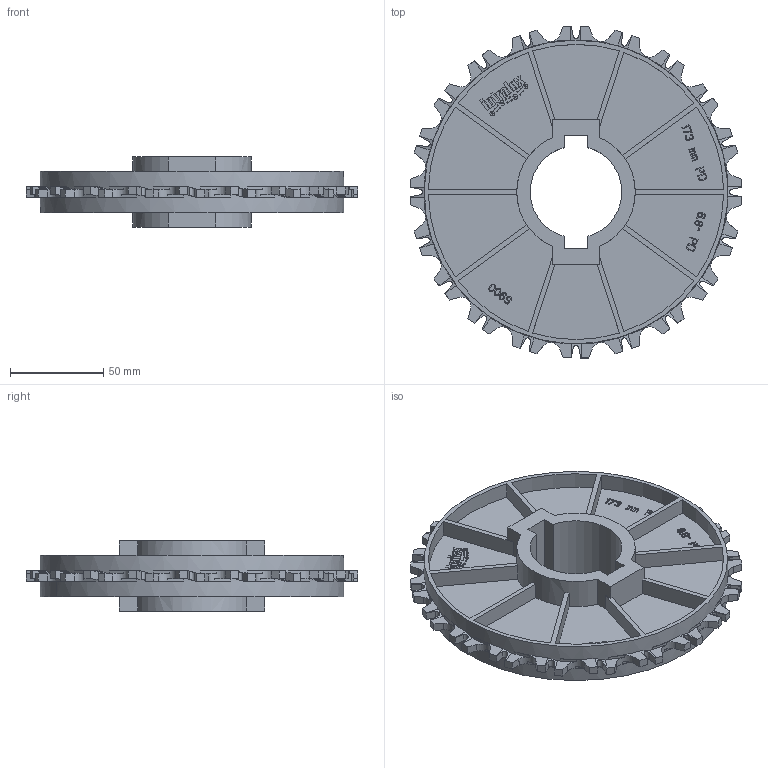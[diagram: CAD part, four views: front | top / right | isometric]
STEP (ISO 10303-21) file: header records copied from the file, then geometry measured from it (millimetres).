
FILE_DESCRIPTION((''),'2;1');
FILE_NAME('S900_SPROCKET_68X1-15_16_PILOT','2008-12-12T',('jmumphre'),(''),'PRO/ENGINEER BY PARAMETRIC TECHNOLOGY CORPORATION, 2008150','PRO/ENGINEER BY PARAMETRIC TECHNOLOGY CORPORATION, 2008150','');
FILE_SCHEMA(('CONFIG_CONTROL_DESIGN'));
Length unit declared in the file: inch
Products named in the file (1): S900_SPROCKET_68X1-15_16_PILOT
Bounding box: 177.86 x 177.86 x 37.59 mm (x, y, z)
Volume: 185532.8 mm3; surface area: 93200.3 mm2
Topology: 1 solids, 1 shells, 1263 faces, 3725 edges, 2510 vertices
Faces by surface type: plane 1103, cylinder 160
Entity records: 42612 total; most frequent: CARTESIAN_POINT 8715, ORIENTED_EDGE 7450, DIRECTION 6467, EDGE_CURVE 3725, VECTOR 3181, LINE 3181, VERTEX_POINT 2510, AXIS2_PLACEMENT_3D 1643
